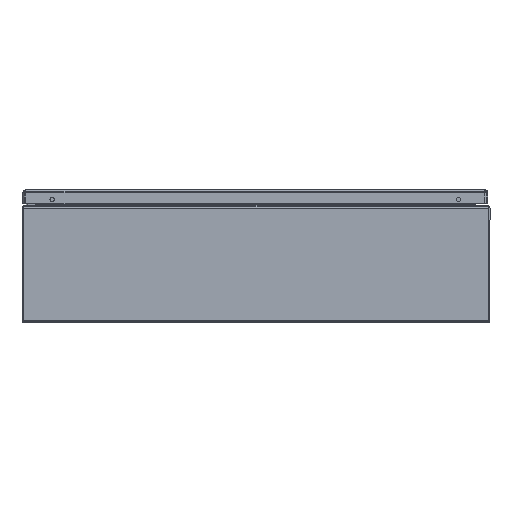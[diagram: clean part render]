
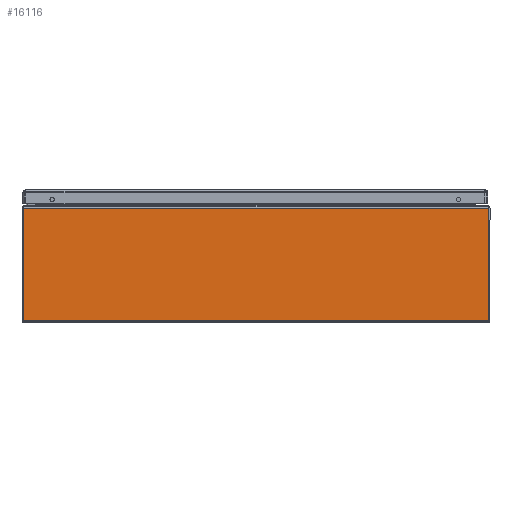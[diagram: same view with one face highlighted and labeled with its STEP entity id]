
A CAD part, front view. The second image highlights one B-rep face of the part: STEP entity #16116.
In plain terms, the highlighted planar face has unit normal (0, -1, 0).
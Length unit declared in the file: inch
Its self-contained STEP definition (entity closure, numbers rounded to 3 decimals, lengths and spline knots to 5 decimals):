
#6039 = VECTOR ( 'NONE', #26325, 39.37008 ) ;
#6047 = LINE ( 'NONE', #26545, #6039 ) ;
#6102 = LINE ( 'NONE', #26738, #6112 ) ;
#6112 = VECTOR ( 'NONE', #26736, 39.37008 ) ;
#6130 = LINE ( 'NONE', #26680, #6131 ) ;
#6131 = VECTOR ( 'NONE', #26678, 39.37008 ) ;
#6137 = LINE ( 'NONE', #26659, #6138 ) ;
#6138 = VECTOR ( 'NONE', #26657, 39.37008 ) ;
#12575 = CARTESIAN_POINT ( 'NONE',  ( -11.93793, -18., 5.855 ) ) ;
#12730 = CARTESIAN_POINT ( 'NONE',  ( 11.93793, -18., 5.855 ) ) ;
#12897 = CARTESIAN_POINT ( 'NONE',  ( -11.93793, -18., 0.106 ) ) ;
#13281 = CARTESIAN_POINT ( 'NONE',  ( 11.93793, -18., 0.106 ) ) ;
#16116 = ADVANCED_FACE ( 'NONE', ( #23958 ), #22028, .T. ) ;
#22022 = DIRECTION ( 'NONE',  ( 0., 0., -1. ) ) ;
#22023 = DIRECTION ( 'NONE',  ( 0., -1., 0. ) ) ;
#22028 = PLANE ( 'NONE',  #29387 ) ;
#22035 = CARTESIAN_POINT ( 'NONE',  ( -192., -18., 5.855 ) ) ;
#23958 = FACE_OUTER_BOUND ( 'NONE', #30776, .T. ) ;
#26325 = DIRECTION ( 'NONE',  ( 0., 0., -1. ) ) ;
#26545 = CARTESIAN_POINT ( 'NONE',  ( -11.93793, -18., 5.855 ) ) ;
#26657 = DIRECTION ( 'NONE',  ( 1., 0., 0. ) ) ;
#26659 = CARTESIAN_POINT ( 'NONE',  ( -192., -18., 0.106 ) ) ;
#26678 = DIRECTION ( 'NONE',  ( 1., 0., 0. ) ) ;
#26680 = CARTESIAN_POINT ( 'NONE',  ( -192., -18., 5.855 ) ) ;
#26736 = DIRECTION ( 'NONE',  ( 0., 0., 1. ) ) ;
#26738 = CARTESIAN_POINT ( 'NONE',  ( 11.93793, -18., 5.855 ) ) ;
#29387 = AXIS2_PLACEMENT_3D ( 'NONE', #22035, #22023, #22022 ) ;
#30776 = EDGE_LOOP ( 'NONE', ( #31696, #31697, #31698, #31699 ) ) ;
#31696 = ORIENTED_EDGE ( 'NONE', *, *, #32875, .T. ) ;
#31697 = ORIENTED_EDGE ( 'NONE', *, *, #32885, .F. ) ;
#31698 = ORIENTED_EDGE ( 'NONE', *, *, #32832, .T. ) ;
#31699 = ORIENTED_EDGE ( 'NONE', *, *, #32889, .T. ) ;
#32832 = EDGE_CURVE ( 'NONE', #33352, #33835, #6047, .T. ) ;
#32875 = EDGE_CURVE ( 'NONE', #33570, #33307, #6102, .T. ) ;
#32885 = EDGE_CURVE ( 'NONE', #33352, #33307, #6130, .T. ) ;
#32889 = EDGE_CURVE ( 'NONE', #33835, #33570, #6137, .T. ) ;
#33307 = VERTEX_POINT ( 'NONE', #12730 ) ;
#33352 = VERTEX_POINT ( 'NONE', #12575 ) ;
#33570 = VERTEX_POINT ( 'NONE', #13281 ) ;
#33835 = VERTEX_POINT ( 'NONE', #12897 ) ;
